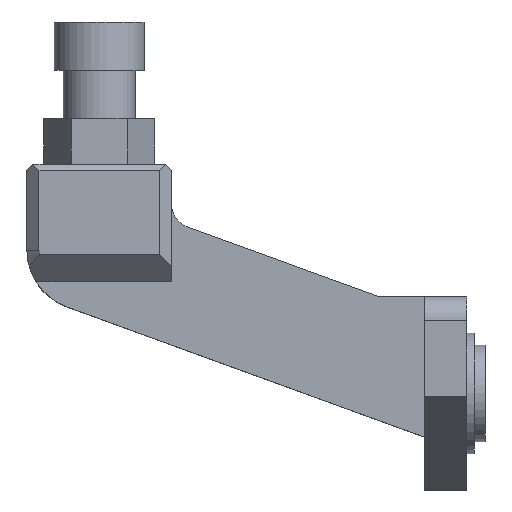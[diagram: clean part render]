
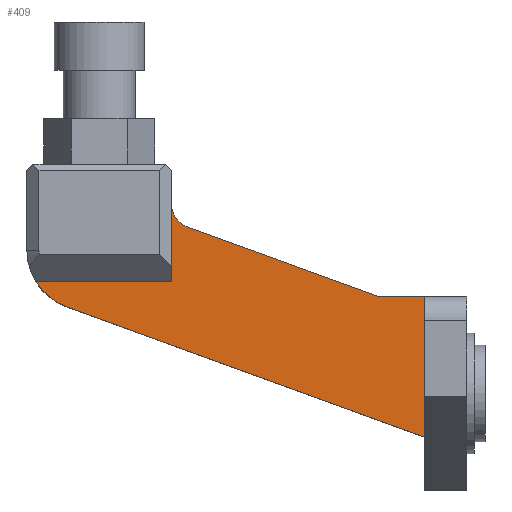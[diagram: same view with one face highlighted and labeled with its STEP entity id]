
A CAD part, top view. The second image highlights one B-rep face of the part: STEP entity #409.
In plain terms, the highlighted planar face has unit normal (0, 0, 1).
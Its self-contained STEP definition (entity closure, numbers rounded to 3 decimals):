
#17 = AXIS2_PLACEMENT_3D ( 'NONE', #1474, #1481, #220 ) ;
#20 = AXIS2_PLACEMENT_3D ( 'NONE', #92, #1382, #1493 ) ;
#92 = CARTESIAN_POINT ( 'NONE',  ( -29., 11.876, 3.75 ) ) ;
#135 = VECTOR ( 'NONE', #159, 1000. ) ;
#159 = DIRECTION ( 'NONE',  ( -1., 0., 0. ) ) ;
#169 = CIRCLE ( 'NONE', #20, 5. ) ;
#175 = ORIENTED_EDGE ( 'NONE', *, *, #1351, .F. ) ;
#212 = LINE ( 'NONE', #236, #1802 ) ;
#220 = DIRECTION ( 'NONE',  ( 1., 0., 0. ) ) ;
#236 = CARTESIAN_POINT ( 'NONE',  ( 2.5, 8., 3.75 ) ) ;
#257 = ORIENTED_EDGE ( 'NONE', *, *, #693, .T. ) ;
#290 = CIRCLE ( 'NONE', #1036, 2. ) ;
#291 = CARTESIAN_POINT ( 'NONE',  ( -22., 14.279, 3.75 ) ) ;
#379 = FACE_OUTER_BOUND ( 'NONE', #1546, .T. ) ;
#385 = DIRECTION ( 'NONE',  ( 0., -1., 0. ) ) ;
#409 = ADVANCED_FACE ( 'NONE', ( #379 ), #932, .T. ) ;
#492 = DIRECTION ( 'NONE',  ( 0., 0., -1. ) ) ;
#564 = LINE ( 'NONE', #291, #1660 ) ;
#593 = VECTOR ( 'NONE', #1214, 1000. ) ;
#598 = LINE ( 'NONE', #1693, #135 ) ;
#618 = CARTESIAN_POINT ( 'NONE',  ( -20., 15.68, 3.75 ) ) ;
#628 = VERTEX_POINT ( 'NONE', #1040 ) ;
#643 = VERTEX_POINT ( 'NONE', #1416 ) ;
#650 = VECTOR ( 'NONE', #990, 1000. ) ;
#652 = CARTESIAN_POINT ( 'NONE',  ( -4.747, 8., 3.75 ) ) ;
#662 = LINE ( 'NONE', #1082, #593 ) ;
#687 = CARTESIAN_POINT ( 'NONE',  ( -1., 8., 3.75 ) ) ;
#693 = EDGE_CURVE ( 'NONE', #1258, #1614, #703, .T. ) ;
#703 = LINE ( 'NONE', #1282, #650 ) ;
#761 = EDGE_CURVE ( 'NONE', #1194, #628, #564, .T. ) ;
#807 = CARTESIAN_POINT ( 'NONE',  ( -1., 0., 3.75 ) ) ;
#913 = VERTEX_POINT ( 'NONE', #1278 ) ;
#932 = PLANE ( 'NONE',  #17 ) ;
#959 = ORIENTED_EDGE ( 'NONE', *, *, #1421, .F. ) ;
#970 = CARTESIAN_POINT ( 'NONE',  ( -1., -3.636, 3.75 ) ) ;
#976 = VERTEX_POINT ( 'NONE', #1136 ) ;
#990 = DIRECTION ( 'NONE',  ( 0.94, -0.342, 0. ) ) ;
#1036 = AXIS2_PLACEMENT_3D ( 'NONE', #618, #492, #1177 ) ;
#1040 = CARTESIAN_POINT ( 'NONE',  ( -20.684, 13.8, 3.75 ) ) ;
#1082 = CARTESIAN_POINT ( 'NONE',  ( -22., 0., 3.75 ) ) ;
#1096 = ORIENTED_EDGE ( 'NONE', *, *, #761, .T. ) ;
#1130 = VERTEX_POINT ( 'NONE', #687 ) ;
#1136 = CARTESIAN_POINT ( 'NONE',  ( -33.255, 9.25, 3.75 ) ) ;
#1141 = ORIENTED_EDGE ( 'NONE', *, *, #1536, .T. ) ;
#1177 = DIRECTION ( 'NONE',  ( 1., 0., 0. ) ) ;
#1194 = VERTEX_POINT ( 'NONE', #652 ) ;
#1214 = DIRECTION ( 'NONE',  ( 0., 1., 0. ) ) ;
#1243 = EDGE_CURVE ( 'NONE', #643, #913, #662, .T. ) ;
#1258 = VERTEX_POINT ( 'NONE', #1759 ) ;
#1278 = CARTESIAN_POINT ( 'NONE',  ( -22., 15.68, 3.75 ) ) ;
#1282 = CARTESIAN_POINT ( 'NONE',  ( 0., -4., 3.75 ) ) ;
#1351 = EDGE_CURVE ( 'NONE', #1258, #976, #169, .T. ) ;
#1352 = DIRECTION ( 'NONE',  ( -1., 0., 0. ) ) ;
#1382 = DIRECTION ( 'NONE',  ( 0., 0., -1. ) ) ;
#1387 = ORIENTED_EDGE ( 'NONE', *, *, #1243, .F. ) ;
#1416 = CARTESIAN_POINT ( 'NONE',  ( -22., 9.25, 3.75 ) ) ;
#1421 = EDGE_CURVE ( 'NONE', #1130, #1614, #1639, .T. ) ;
#1474 = CARTESIAN_POINT ( 'NONE',  ( 0., 0., 3.75 ) ) ;
#1481 = DIRECTION ( 'NONE',  ( 0., 0., 1. ) ) ;
#1493 = DIRECTION ( 'NONE',  ( 1., 0., 0. ) ) ;
#1503 = ORIENTED_EDGE ( 'NONE', *, *, #1754, .T. ) ;
#1536 = EDGE_CURVE ( 'NONE', #628, #913, #290, .T. ) ;
#1546 = EDGE_LOOP ( 'NONE', ( #1503, #175, #257, #959, #1720, #1096, #1141, #1387 ) ) ;
#1585 = DIRECTION ( 'NONE',  ( -0.94, 0.342, 0. ) ) ;
#1614 = VERTEX_POINT ( 'NONE', #970 ) ;
#1639 = LINE ( 'NONE', #807, #1662 ) ;
#1660 = VECTOR ( 'NONE', #1585, 1000. ) ;
#1662 = VECTOR ( 'NONE', #385, 1000. ) ;
#1693 = CARTESIAN_POINT ( 'NONE',  ( -34., 9.25, 3.75 ) ) ;
#1720 = ORIENTED_EDGE ( 'NONE', *, *, #1783, .T. ) ;
#1754 = EDGE_CURVE ( 'NONE', #643, #976, #598, .T. ) ;
#1759 = CARTESIAN_POINT ( 'NONE',  ( -30.71, 7.178, 3.75 ) ) ;
#1783 = EDGE_CURVE ( 'NONE', #1130, #1194, #212, .T. ) ;
#1802 = VECTOR ( 'NONE', #1352, 1000. ) ;
